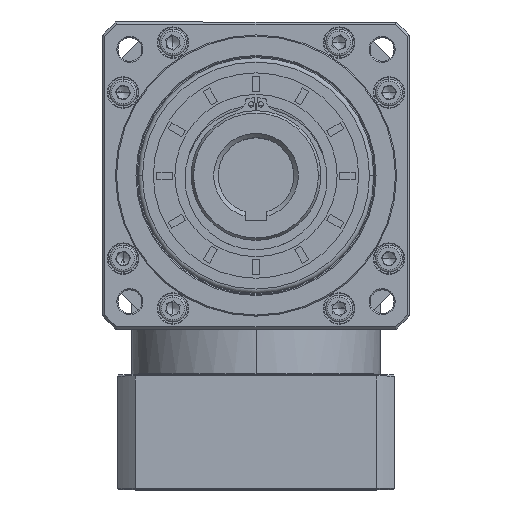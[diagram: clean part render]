
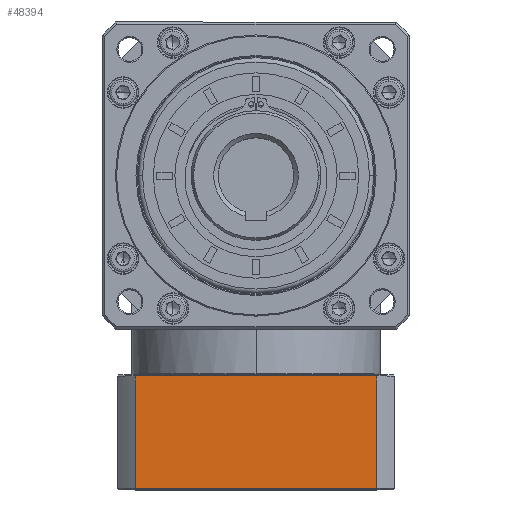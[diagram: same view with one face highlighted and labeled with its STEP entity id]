
A CAD part, top view. The second image highlights one B-rep face of the part: STEP entity #48394.
In plain terms, the highlighted planar face has unit normal (0, 0, 1).
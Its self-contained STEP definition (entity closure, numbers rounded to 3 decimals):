
#1687 = CARTESIAN_POINT ( 'NONE',  ( -260.581, -18.88, 31.196 ) ) ;
#6243 = VECTOR ( 'NONE', #27467, 1000. ) ;
#19643 = EDGE_CURVE ( 'NONE', #137320, #141703, #82831, .T. ) ;
#27232 = CARTESIAN_POINT ( 'NONE',  ( -260.581, -18.38, 31.196 ) ) ;
#27467 = DIRECTION ( 'NONE',  ( 1., 0., 0. ) ) ;
#34831 = VECTOR ( 'NONE', #85443, 1000. ) ;
#48394 = ADVANCED_FACE ( 'NONE', ( #172780 ), #161095, .F. ) ;
#61884 = CARTESIAN_POINT ( 'NONE',  ( -148.706, 33.62, 31.196 ) ) ;
#74235 = EDGE_CURVE ( 'NONE', #77422, #137320, #107186, .T. ) ;
#77422 = VERTEX_POINT ( 'NONE', #27232 ) ;
#82831 = LINE ( 'NONE', #120342, #6243 ) ;
#85443 = DIRECTION ( 'NONE',  ( 0., 1., 0. ) ) ;
#90538 = DIRECTION ( 'NONE',  ( -1., 0., 0. ) ) ;
#90968 = EDGE_CURVE ( 'NONE', #141703, #113792, #156455, .T. ) ;
#95228 = ORIENTED_EDGE ( 'NONE', *, *, #19643, .F. ) ;
#99506 = VECTOR ( 'NONE', #90538, 1000. ) ;
#106737 = DIRECTION ( 'NONE',  ( 0., 0., -1. ) ) ;
#107186 = LINE ( 'NONE', #1687, #34831 ) ;
#110954 = AXIS2_PLACEMENT_3D ( 'NONE', #132470, #106737, #148013 ) ;
#113792 = VERTEX_POINT ( 'NONE', #123595 ) ;
#120342 = CARTESIAN_POINT ( 'NONE',  ( -268.644, 33.62, 31.196 ) ) ;
#123595 = CARTESIAN_POINT ( 'NONE',  ( -148.706, -18.38, 31.196 ) ) ;
#126403 = EDGE_CURVE ( 'NONE', #113792, #77422, #176433, .T. ) ;
#132470 = CARTESIAN_POINT ( 'NONE',  ( -268.644, -18.88, 31.196 ) ) ;
#137320 = VERTEX_POINT ( 'NONE', #146630 ) ;
#140467 = DIRECTION ( 'NONE',  ( 0., -1., 0. ) ) ;
#141703 = VERTEX_POINT ( 'NONE', #61884 ) ;
#145592 = ORIENTED_EDGE ( 'NONE', *, *, #74235, .F. ) ;
#146630 = CARTESIAN_POINT ( 'NONE',  ( -260.581, 33.62, 31.196 ) ) ;
#148013 = DIRECTION ( 'NONE',  ( -1., 0., 0. ) ) ;
#151153 = EDGE_LOOP ( 'NONE', ( #161672, #95228, #145592, #155398 ) ) ;
#153569 = CARTESIAN_POINT ( 'NONE',  ( -148.706, 276.94, 31.196 ) ) ;
#155398 = ORIENTED_EDGE ( 'NONE', *, *, #126403, .F. ) ;
#156455 = LINE ( 'NONE', #153569, #175688 ) ;
#161095 = PLANE ( 'NONE',  #110954 ) ;
#161672 = ORIENTED_EDGE ( 'NONE', *, *, #90968, .F. ) ;
#172780 = FACE_OUTER_BOUND ( 'NONE', #151153, .T. ) ;
#174703 = CARTESIAN_POINT ( 'NONE',  ( -268.644, -18.38, 31.196 ) ) ;
#175688 = VECTOR ( 'NONE', #140467, 1000. ) ;
#176433 = LINE ( 'NONE', #174703, #99506 ) ;
